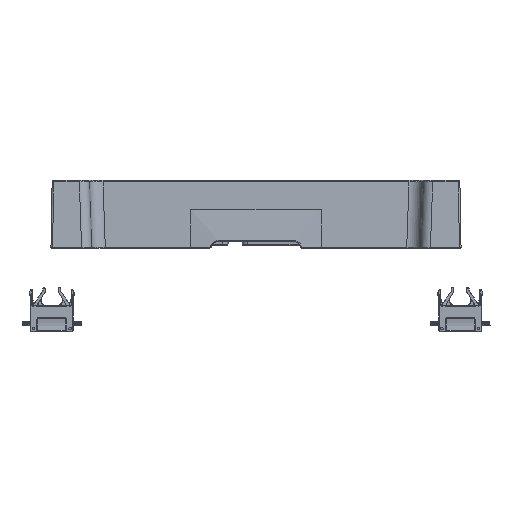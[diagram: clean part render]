
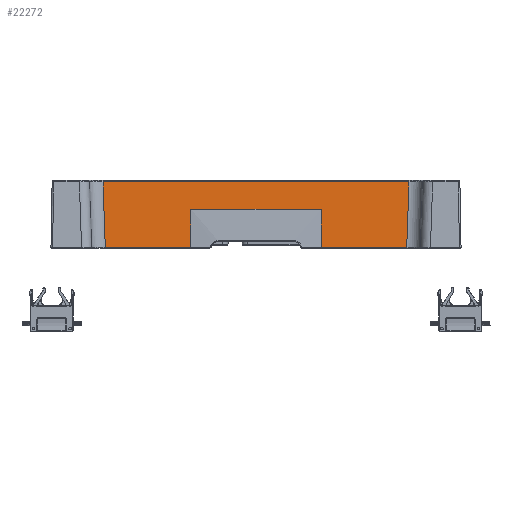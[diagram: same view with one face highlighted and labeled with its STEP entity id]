
A CAD part, top view. The second image highlights one B-rep face of the part: STEP entity #22272.
In plain terms, the highlighted planar face has unit normal (0, 0.039, 0.999).
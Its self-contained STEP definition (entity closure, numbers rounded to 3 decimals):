
#156 = EDGE_CURVE ( 'NONE', #51199, #52544, #36274, .T. ) ;
#172 = DIRECTION ( 'NONE',  ( 1., 0., 0. ) ) ;
#244 = EDGE_CURVE ( 'NONE', #31525, #51199, #2517, .T. ) ;
#754 = ORIENTED_EDGE ( 'NONE', *, *, #244, .T. ) ;
#2517 = LINE ( 'NONE', #27821, #9722 ) ;
#3212 = VERTEX_POINT ( 'NONE', #26045 ) ;
#4206 = CARTESIAN_POINT ( 'NONE',  ( 81.177, 120.054, 188.697 ) ) ;
#4373 = VECTOR ( 'NONE', #19169, 1000. ) ;
#4424 = VERTEX_POINT ( 'NONE', #7076 ) ;
#4687 = ORIENTED_EDGE ( 'NONE', *, *, #156, .T. ) ;
#4883 = ORIENTED_EDGE ( 'NONE', *, *, #10927, .T. ) ;
#5394 = ORIENTED_EDGE ( 'NONE', *, *, #48579, .T. ) ;
#5466 = CARTESIAN_POINT ( 'NONE',  ( 81.177, 118.055, 188.776 ) ) ;
#5866 = PLANE ( 'NONE',  #8514 ) ;
#6578 = CARTESIAN_POINT ( 'NONE',  ( 81.177, 72.395, 190.57 ) ) ;
#7076 = CARTESIAN_POINT ( 'NONE',  ( 81.177, 74.961, 190.47 ) ) ;
#7880 = EDGE_LOOP ( 'NONE', ( #48205, #4883, #23889, #25804, #31837, #15738, #754, #4687, #5394, #18970, #24753, #19264 ) ) ;
#7982 = CARTESIAN_POINT ( 'NONE',  ( -187.373, 72.395, 190.57 ) ) ;
#8197 = CARTESIAN_POINT ( 'NONE',  ( 81.177, 74.106, 190.503 ) ) ;
#8514 = AXIS2_PLACEMENT_3D ( 'NONE', #38530, #14529, #9916 ) ;
#8679 = VECTOR ( 'NONE', #48593, 1000. ) ;
#9268 = CARTESIAN_POINT ( 'NONE',  ( 81.177, 103.69, 189.34 ) ) ;
#9442 = LINE ( 'NONE', #31957, #8679 ) ;
#9722 = VECTOR ( 'NONE', #53150, 1000. ) ;
#9740 = B_SPLINE_CURVE_WITH_KNOTS ( 'NONE', 3,
 ( #27805, #8197, #40879, #28072 ),
 .UNSPECIFIED., .F., .F.,
 ( 4, 4 ),
 ( 0., 1. ),
 .UNSPECIFIED. ) ;
#9916 = DIRECTION ( 'NONE',  ( 0., -0.999, 0.039 ) ) ;
#10048 = CARTESIAN_POINT ( 'NONE',  ( 81.177, 120.054, 188.697 ) ) ;
#10160 = CARTESIAN_POINT ( 'NONE',  ( -81.177, 74.961, 190.47 ) ) ;
#10701 = CARTESIAN_POINT ( 'NONE',  ( -81.177, 103.69, 189.34 ) ) ;
#10927 = EDGE_CURVE ( 'NONE', #3212, #4424, #41623, .T. ) ;
#11249 = CARTESIAN_POINT ( 'NONE',  ( 187.373, 72.395, 190.57 ) ) ;
#11271 = EDGE_CURVE ( 'NONE', #4424, #42019, #9740, .T. ) ;
#12876 = EDGE_CURVE ( 'NONE', #28188, #25488, #25181, .T. ) ;
#13872 = CARTESIAN_POINT ( 'NONE',  ( 81.177, 89.326, 189.905 ) ) ;
#14281 = LINE ( 'NONE', #26549, #31188 ) ;
#14529 = DIRECTION ( 'NONE',  ( 0., 0.039, 0.999 ) ) ;
#14667 = DIRECTION ( 'NONE',  ( 0., -0.999, 0.039 ) ) ;
#15239 = VERTEX_POINT ( 'NONE', #27571 ) ;
#15480 = VECTOR ( 'NONE', #14667, 1000. ) ;
#15497 = CARTESIAN_POINT ( 'NONE',  ( -81.177, 73.251, 190.536 ) ) ;
#15738 = ORIENTED_EDGE ( 'NONE', *, *, #38806, .F. ) ;
#16461 = CARTESIAN_POINT ( 'NONE',  ( -81.177, 72.395, 190.571 ) ) ;
#18970 = ORIENTED_EDGE ( 'NONE', *, *, #35915, .T. ) ;
#19169 = DIRECTION ( 'NONE',  ( 1., 0., 0. ) ) ;
#19264 = ORIENTED_EDGE ( 'NONE', *, *, #12876, .T. ) ;
#22272 = ADVANCED_FACE ( 'NONE', ( #43445 ), #5866, .T. ) ;
#23625 = VECTOR ( 'NONE', #43651, 1000. ) ;
#23889 = ORIENTED_EDGE ( 'NONE', *, *, #11271, .T. ) ;
#24753 = ORIENTED_EDGE ( 'NONE', *, *, #53566, .T. ) ;
#25181 = LINE ( 'NONE', #29562, #30806 ) ;
#25488 = VERTEX_POINT ( 'NONE', #4206 ) ;
#25804 = ORIENTED_EDGE ( 'NONE', *, *, #26507, .T. ) ;
#26045 = CARTESIAN_POINT ( 'NONE',  ( 81.177, 118.055, 188.776 ) ) ;
#26507 = EDGE_CURVE ( 'NONE', #42019, #33239, #47985, .T. ) ;
#26549 = CARTESIAN_POINT ( 'NONE',  ( -81.177, 118.055, 188.776 ) ) ;
#27571 = CARTESIAN_POINT ( 'NONE',  ( -81.177, 118.055, 188.776 ) ) ;
#27805 = CARTESIAN_POINT ( 'NONE',  ( 81.177, 74.961, 190.47 ) ) ;
#27821 = CARTESIAN_POINT ( 'NONE',  ( -187.376, 72.483, 190.566 ) ) ;
#28072 = CARTESIAN_POINT ( 'NONE',  ( 81.177, 72.395, 190.571 ) ) ;
#28188 = VERTEX_POINT ( 'NONE', #42391 ) ;
#29562 = CARTESIAN_POINT ( 'NONE',  ( 267.739, 120.054, 188.697 ) ) ;
#30615 = CARTESIAN_POINT ( 'NONE',  ( -81.177, 118.055, 188.776 ) ) ;
#30806 = VECTOR ( 'NONE', #172, 1000. ) ;
#30819 = DIRECTION ( 'NONE',  ( 1., 0., 0. ) ) ;
#31175 = VERTEX_POINT ( 'NONE', #33170 ) ;
#31188 = VECTOR ( 'NONE', #47023, 1000. ) ;
#31525 = VERTEX_POINT ( 'NONE', #48045 ) ;
#31837 = ORIENTED_EDGE ( 'NONE', *, *, #38125, .T. ) ;
#31957 = CARTESIAN_POINT ( 'NONE',  ( 187.373, 72.395, 190.57 ) ) ;
#33170 = CARTESIAN_POINT ( 'NONE',  ( 190.216, 153.828, 187.37 ) ) ;
#33239 = VERTEX_POINT ( 'NONE', #11249 ) ;
#33394 = CARTESIAN_POINT ( 'NONE',  ( -81.177, 74.961, 190.47 ) ) ;
#34824 = EDGE_CURVE ( 'NONE', #25488, #3212, #52018, .T. ) ;
#35915 = EDGE_CURVE ( 'NONE', #42451, #15239, #36613, .T. ) ;
#36274 = LINE ( 'NONE', #40070, #23625 ) ;
#36613 = B_SPLINE_CURVE_WITH_KNOTS ( 'NONE', 3,
 ( #10160, #39561, #10701, #30615 ),
 .UNSPECIFIED., .F., .F.,
 ( 4, 4 ),
 ( 0., 1. ),
 .UNSPECIFIED. ) ;
#36752 = CARTESIAN_POINT ( 'NONE',  ( -81.177, 74.106, 190.503 ) ) ;
#38072 = CARTESIAN_POINT ( 'NONE',  ( 81.177, 72.395, 190.571 ) ) ;
#38125 = EDGE_CURVE ( 'NONE', #33239, #31175, #9442, .T. ) ;
#38530 = CARTESIAN_POINT ( 'NONE',  ( 267.739, 71.077, 190.622 ) ) ;
#38806 = EDGE_CURVE ( 'NONE', #31525, #31175, #43733, .T. ) ;
#39561 = CARTESIAN_POINT ( 'NONE',  ( -81.177, 89.326, 189.905 ) ) ;
#40070 = CARTESIAN_POINT ( 'NONE',  ( -187.373, 72.395, 190.57 ) ) ;
#40847 = CARTESIAN_POINT ( 'NONE',  ( -81.177, 72.395, 190.571 ) ) ;
#40879 = CARTESIAN_POINT ( 'NONE',  ( 81.177, 73.251, 190.536 ) ) ;
#41623 = B_SPLINE_CURVE_WITH_KNOTS ( 'NONE', 3,
 ( #5466, #9268, #13872, #43323 ),
 .UNSPECIFIED., .F., .F.,
 ( 4, 4 ),
 ( 0., 1. ),
 .UNSPECIFIED. ) ;
#42019 = VERTEX_POINT ( 'NONE', #38072 ) ;
#42391 = CARTESIAN_POINT ( 'NONE',  ( -81.177, 120.054, 188.697 ) ) ;
#42451 = VERTEX_POINT ( 'NONE', #33394 ) ;
#43323 = CARTESIAN_POINT ( 'NONE',  ( 81.177, 74.961, 190.47 ) ) ;
#43445 = FACE_OUTER_BOUND ( 'NONE', #7880, .T. ) ;
#43651 = DIRECTION ( 'NONE',  ( 1., 0., 0. ) ) ;
#43733 = LINE ( 'NONE', #47555, #4373 ) ;
#44936 = VECTOR ( 'NONE', #30819, 1000. ) ;
#45453 = B_SPLINE_CURVE_WITH_KNOTS ( 'NONE', 3,
 ( #40847, #15497, #36752, #53646 ),
 .UNSPECIFIED., .F., .F.,
 ( 4, 4 ),
 ( 0., 1. ),
 .UNSPECIFIED. ) ;
#47023 = DIRECTION ( 'NONE',  ( 0., 0.999, -0.039 ) ) ;
#47555 = CARTESIAN_POINT ( 'NONE',  ( 267.739, 153.828, 187.37 ) ) ;
#47985 = LINE ( 'NONE', #6578, #44936 ) ;
#48045 = CARTESIAN_POINT ( 'NONE',  ( -190.216, 153.828, 187.37 ) ) ;
#48205 = ORIENTED_EDGE ( 'NONE', *, *, #34824, .T. ) ;
#48579 = EDGE_CURVE ( 'NONE', #52544, #42451, #45453, .T. ) ;
#48593 = DIRECTION ( 'NONE',  ( 0.035, 0.999, -0.039 ) ) ;
#51199 = VERTEX_POINT ( 'NONE', #7982 ) ;
#52018 = LINE ( 'NONE', #10048, #15480 ) ;
#52544 = VERTEX_POINT ( 'NONE', #16461 ) ;
#53150 = DIRECTION ( 'NONE',  ( 0.035, -0.999, 0.039 ) ) ;
#53566 = EDGE_CURVE ( 'NONE', #15239, #28188, #14281, .T. ) ;
#53646 = CARTESIAN_POINT ( 'NONE',  ( -81.177, 74.961, 190.47 ) ) ;
